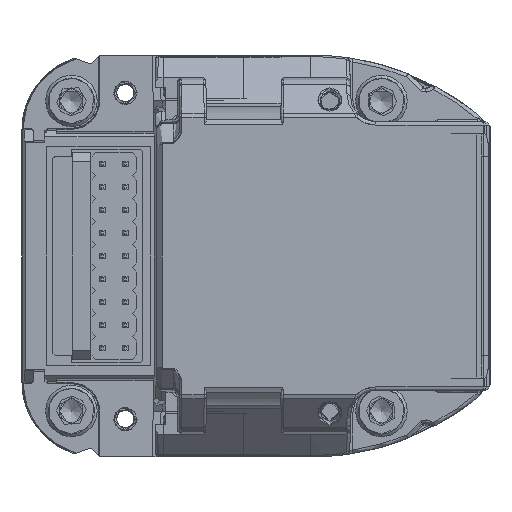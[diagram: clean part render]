
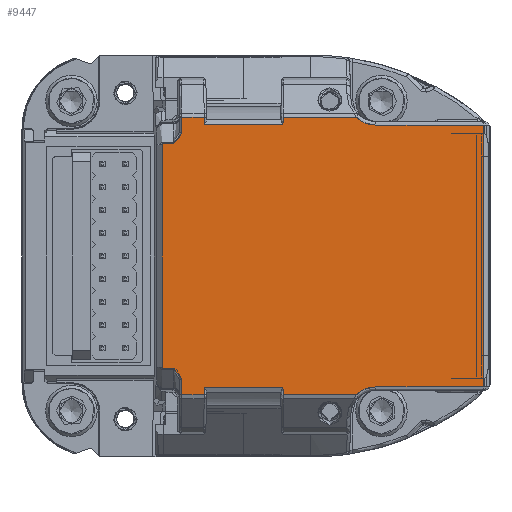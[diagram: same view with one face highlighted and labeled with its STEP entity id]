
A CAD part, front view. The second image highlights one B-rep face of the part: STEP entity #9447.
In plain terms, the highlighted planar face has unit normal (0, -1, 0).
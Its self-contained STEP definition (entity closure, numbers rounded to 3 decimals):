
#9447=ADVANCED_FACE('',(#10986),#10023,.T.);
#10023=PLANE('',#42912);
#10986=FACE_OUTER_BOUND('',#12180,.T.);
#12180=EDGE_LOOP('',(#23895,#23896,#23897,#23898,#23899,#23900,#23901,#23902,
#23903,#23904,#23905,#23906,#23907,#23908,#23909,#23910,#23911,#23912,#23913,
#23914,#23915,#23916,#23917,#23918));
#14998=LINE('',#73759,#17832);
#14999=LINE('',#73762,#17833);
#15000=LINE('',#73764,#17834);
#15001=LINE('',#73771,#17835);
#15002=LINE('',#73778,#17836);
#15003=LINE('',#73785,#17837);
#15004=LINE('',#73787,#17838);
#15005=LINE('',#73794,#17839);
#15006=LINE('',#73796,#17840);
#15007=LINE('',#73798,#17841);
#15008=LINE('',#73800,#17842);
#15009=LINE('',#73802,#17843);
#15010=LINE('',#73809,#17844);
#15011=LINE('',#73811,#17845);
#15012=LINE('',#73818,#17846);
#15013=LINE('',#73825,#17847);
#17832=VECTOR('',#48998,1.);
#17833=VECTOR('',#48999,1.);
#17834=VECTOR('',#49000,1.);
#17835=VECTOR('',#49001,1.);
#17836=VECTOR('',#49002,1.);
#17837=VECTOR('',#49003,1.);
#17838=VECTOR('',#49004,1.);
#17839=VECTOR('',#49005,1.);
#17840=VECTOR('',#49006,1.);
#17841=VECTOR('',#49007,1.);
#17842=VECTOR('',#49008,1.);
#17843=VECTOR('',#49009,1.);
#17844=VECTOR('',#49010,1.);
#17845=VECTOR('',#49011,1.);
#17846=VECTOR('',#49012,1.);
#17847=VECTOR('',#49013,1.);
#23895=ORIENTED_EDGE('',*,*,#36047,.T.);
#23896=ORIENTED_EDGE('',*,*,#36048,.T.);
#23897=ORIENTED_EDGE('',*,*,#36049,.T.);
#23898=ORIENTED_EDGE('',*,*,#36050,.T.);
#23899=ORIENTED_EDGE('',*,*,#36051,.T.);
#23900=ORIENTED_EDGE('',*,*,#36052,.T.);
#23901=ORIENTED_EDGE('',*,*,#36053,.T.);
#23902=ORIENTED_EDGE('',*,*,#36054,.T.);
#23903=ORIENTED_EDGE('',*,*,#36055,.T.);
#23904=ORIENTED_EDGE('',*,*,#36056,.T.);
#23905=ORIENTED_EDGE('',*,*,#36057,.T.);
#23906=ORIENTED_EDGE('',*,*,#36058,.T.);
#23907=ORIENTED_EDGE('',*,*,#36059,.T.);
#23908=ORIENTED_EDGE('',*,*,#36060,.T.);
#23909=ORIENTED_EDGE('',*,*,#36061,.T.);
#23910=ORIENTED_EDGE('',*,*,#36062,.T.);
#23911=ORIENTED_EDGE('',*,*,#36063,.T.);
#23912=ORIENTED_EDGE('',*,*,#36064,.T.);
#23913=ORIENTED_EDGE('',*,*,#36065,.T.);
#23914=ORIENTED_EDGE('',*,*,#36066,.T.);
#23915=ORIENTED_EDGE('',*,*,#36067,.T.);
#23916=ORIENTED_EDGE('',*,*,#36068,.T.);
#23917=ORIENTED_EDGE('',*,*,#36069,.T.);
#23918=ORIENTED_EDGE('',*,*,#36070,.T.);
#29974=VERTEX_POINT('',#73760);
#29975=VERTEX_POINT('',#73761);
#29976=VERTEX_POINT('',#73763);
#29977=VERTEX_POINT('',#73765);
#29978=VERTEX_POINT('',#73770);
#29979=VERTEX_POINT('',#73772);
#29980=VERTEX_POINT('',#73777);
#29981=VERTEX_POINT('',#73779);
#29982=VERTEX_POINT('',#73784);
#29983=VERTEX_POINT('',#73786);
#29984=VERTEX_POINT('',#73788);
#29985=VERTEX_POINT('',#73793);
#29986=VERTEX_POINT('',#73795);
#29987=VERTEX_POINT('',#73797);
#29988=VERTEX_POINT('',#73799);
#29989=VERTEX_POINT('',#73801);
#29990=VERTEX_POINT('',#73803);
#29991=VERTEX_POINT('',#73808);
#29992=VERTEX_POINT('',#73810);
#29993=VERTEX_POINT('',#73812);
#29994=VERTEX_POINT('',#73817);
#29995=VERTEX_POINT('',#73819);
#29996=VERTEX_POINT('',#73824);
#29997=VERTEX_POINT('',#73826);
#36047=EDGE_CURVE('',#29974,#29975,#14998,.T.);
#36048=EDGE_CURVE('',#29975,#29976,#14999,.T.);
#36049=EDGE_CURVE('',#29976,#29977,#15000,.T.);
#36050=EDGE_CURVE('',#29977,#29978,#38386,.T.);
#36051=EDGE_CURVE('',#29978,#29979,#15001,.T.);
#36052=EDGE_CURVE('',#29979,#29980,#38387,.T.);
#36053=EDGE_CURVE('',#29980,#29981,#15002,.T.);
#36054=EDGE_CURVE('',#29981,#29982,#38388,.T.);
#36055=EDGE_CURVE('',#29982,#29983,#15003,.T.);
#36056=EDGE_CURVE('',#29983,#29984,#15004,.T.);
#36057=EDGE_CURVE('',#29984,#29985,#38389,.T.);
#36058=EDGE_CURVE('',#29985,#29986,#15005,.T.);
#36059=EDGE_CURVE('',#29986,#29987,#15006,.T.);
#36060=EDGE_CURVE('',#29987,#29988,#15007,.T.);
#36061=EDGE_CURVE('',#29988,#29989,#15008,.T.);
#36062=EDGE_CURVE('',#29989,#29990,#15009,.T.);
#36063=EDGE_CURVE('',#29990,#29991,#38390,.T.);
#36064=EDGE_CURVE('',#29991,#29992,#15010,.T.);
#36065=EDGE_CURVE('',#29992,#29993,#15011,.T.);
#36066=EDGE_CURVE('',#29993,#29994,#38391,.T.);
#36067=EDGE_CURVE('',#29994,#29995,#15012,.T.);
#36068=EDGE_CURVE('',#29995,#29996,#38392,.T.);
#36069=EDGE_CURVE('',#29996,#29997,#15013,.T.);
#36070=EDGE_CURVE('',#29997,#29974,#38393,.T.);
#38386=B_SPLINE_CURVE_WITH_KNOTS('',3,(#73766,#73767,#73768,#73769),
 .UNSPECIFIED.,.F.,.F.,(4,4),(0.,1.),.UNSPECIFIED.);
#38387=B_SPLINE_CURVE_WITH_KNOTS('',3,(#73773,#73774,#73775,#73776),
 .UNSPECIFIED.,.F.,.F.,(4,4),(0.,1.),.UNSPECIFIED.);
#38388=B_SPLINE_CURVE_WITH_KNOTS('',3,(#73780,#73781,#73782,#73783),
 .UNSPECIFIED.,.F.,.F.,(4,4),(0.,1.),.UNSPECIFIED.);
#38389=B_SPLINE_CURVE_WITH_KNOTS('',3,(#73789,#73790,#73791,#73792),
 .UNSPECIFIED.,.F.,.F.,(4,4),(0.,1.),.UNSPECIFIED.);
#38390=B_SPLINE_CURVE_WITH_KNOTS('',3,(#73804,#73805,#73806,#73807),
 .UNSPECIFIED.,.F.,.F.,(4,4),(0.,1.),.UNSPECIFIED.);
#38391=B_SPLINE_CURVE_WITH_KNOTS('',3,(#73813,#73814,#73815,#73816),
 .UNSPECIFIED.,.F.,.F.,(4,4),(0.,1.),.UNSPECIFIED.);
#38392=B_SPLINE_CURVE_WITH_KNOTS('',3,(#73820,#73821,#73822,#73823),
 .UNSPECIFIED.,.F.,.F.,(4,4),(0.,1.),.UNSPECIFIED.);
#38393=B_SPLINE_CURVE_WITH_KNOTS('',3,(#73827,#73828,#73829,#73830),
 .UNSPECIFIED.,.F.,.F.,(4,4),(0.,1.),.UNSPECIFIED.);
#42912=AXIS2_PLACEMENT_3D('',#73831,#49014,#49015);
#48998=DIRECTION('',(1.,0.,0.));
#48999=DIRECTION('',(0.,0.,1.));
#49000=DIRECTION('',(-1.,0.,0.));
#49001=DIRECTION('',(-1.,0.,0.));
#49002=DIRECTION('',(-1.,0.,0.));
#49003=DIRECTION('',(-1.,0.,0.));
#49004=DIRECTION('',(0.,0.,-1.));
#49005=DIRECTION('',(-1.,0.,0.));
#49006=DIRECTION('',(-1.,0.,0.));
#49007=DIRECTION('',(0.,0.,-1.));
#49008=DIRECTION('',(1.,0.,0.));
#49009=DIRECTION('',(1.,0.,0.));
#49010=DIRECTION('',(0.,0.,-1.));
#49011=DIRECTION('',(1.,0.,0.));
#49012=DIRECTION('',(1.,0.,0.));
#49013=DIRECTION('',(1.,0.,0.));
#49014=DIRECTION('',(0.,-1.,0.));
#49015=DIRECTION('',(0.,0.,1.));
#73759=CARTESIAN_POINT('',(26.215,-1728.1,-28.9));
#73760=CARTESIAN_POINT('',(30.8,-1728.1,-28.9));
#73761=CARTESIAN_POINT('',(40.2,-1728.1,-28.9));
#73762=CARTESIAN_POINT('',(40.2,-1728.1,-17.5));
#73763=CARTESIAN_POINT('',(40.2,-1728.1,-6.1));
#73764=CARTESIAN_POINT('',(26.215,-1728.1,-6.1));
#73765=CARTESIAN_POINT('',(30.8,-1728.1,-6.1));
#73766=CARTESIAN_POINT('',(30.8,-1728.1,-6.1));
#73767=CARTESIAN_POINT('',(30.132,-1728.1,-6.1));
#73768=CARTESIAN_POINT('',(29.556,-1728.1,-5.869));
#73769=CARTESIAN_POINT('',(29.072,-1728.1,-5.407));
#73770=CARTESIAN_POINT('',(29.072,-1728.1,-5.407));
#73771=CARTESIAN_POINT('',(26.215,-1728.1,-5.407));
#73772=CARTESIAN_POINT('',(22.734,-1728.1,-5.407));
#73773=CARTESIAN_POINT('',(22.734,-1728.1,-5.407));
#73774=CARTESIAN_POINT('',(22.73,-1728.1,-5.622));
#73775=CARTESIAN_POINT('',(22.727,-1728.1,-5.836));
#73776=CARTESIAN_POINT('',(22.723,-1728.1,-6.05));
#73777=CARTESIAN_POINT('',(22.723,-1728.1,-6.05));
#73778=CARTESIAN_POINT('',(26.215,-1728.1,-6.05));
#73779=CARTESIAN_POINT('',(15.877,-1728.1,-6.05));
#73780=CARTESIAN_POINT('',(15.877,-1728.1,-6.05));
#73781=CARTESIAN_POINT('',(15.873,-1728.1,-5.836));
#73782=CARTESIAN_POINT('',(15.87,-1728.1,-5.622));
#73783=CARTESIAN_POINT('',(15.866,-1728.1,-5.407));
#73784=CARTESIAN_POINT('',(15.866,-1728.1,-5.407));
#73785=CARTESIAN_POINT('',(26.215,-1728.1,-5.407));
#73786=CARTESIAN_POINT('',(13.915,-1728.1,-5.407));
#73787=CARTESIAN_POINT('',(13.915,-1728.1,-17.5));
#73788=CARTESIAN_POINT('',(13.915,-1728.1,-6.749));
#73789=CARTESIAN_POINT('',(13.915,-1728.1,-6.749));
#73790=CARTESIAN_POINT('',(13.915,-1728.1,-7.29));
#73791=CARTESIAN_POINT('',(13.609,-1728.1,-7.733));
#73792=CARTESIAN_POINT('',(13.219,-1728.1,-7.733));
#73793=CARTESIAN_POINT('',(13.219,-1728.1,-7.733));
#73794=CARTESIAN_POINT('',(26.215,-1728.1,-7.733));
#73795=CARTESIAN_POINT('',(12.23,-1728.1,-7.733));
#73796=CARTESIAN_POINT('',(26.215,-1728.1,-7.733));
#73797=CARTESIAN_POINT('',(12.23,-1728.1,-7.733));
#73798=CARTESIAN_POINT('',(12.23,-1728.1,-17.5));
#73799=CARTESIAN_POINT('',(12.23,-1728.1,-27.267));
#73800=CARTESIAN_POINT('',(26.215,-1728.1,-27.267));
#73801=CARTESIAN_POINT('',(12.23,-1728.1,-27.267));
#73802=CARTESIAN_POINT('',(26.215,-1728.1,-27.267));
#73803=CARTESIAN_POINT('',(13.219,-1728.1,-27.267));
#73804=CARTESIAN_POINT('',(13.219,-1728.1,-27.267));
#73805=CARTESIAN_POINT('',(13.598,-1728.1,-27.267));
#73806=CARTESIAN_POINT('',(13.915,-1728.1,-27.704));
#73807=CARTESIAN_POINT('',(13.915,-1728.1,-28.251));
#73808=CARTESIAN_POINT('',(13.915,-1728.1,-28.251));
#73809=CARTESIAN_POINT('',(13.915,-1728.1,-17.5));
#73810=CARTESIAN_POINT('',(13.915,-1728.1,-29.593));
#73811=CARTESIAN_POINT('',(26.215,-1728.1,-29.593));
#73812=CARTESIAN_POINT('',(15.866,-1728.1,-29.593));
#73813=CARTESIAN_POINT('',(15.866,-1728.1,-29.593));
#73814=CARTESIAN_POINT('',(15.87,-1728.1,-29.378));
#73815=CARTESIAN_POINT('',(15.873,-1728.1,-29.164));
#73816=CARTESIAN_POINT('',(15.877,-1728.1,-28.95));
#73817=CARTESIAN_POINT('',(15.877,-1728.1,-28.95));
#73818=CARTESIAN_POINT('',(26.215,-1728.1,-28.95));
#73819=CARTESIAN_POINT('',(22.723,-1728.1,-28.95));
#73820=CARTESIAN_POINT('',(22.723,-1728.1,-28.95));
#73821=CARTESIAN_POINT('',(22.727,-1728.1,-29.164));
#73822=CARTESIAN_POINT('',(22.73,-1728.1,-29.378));
#73823=CARTESIAN_POINT('',(22.734,-1728.1,-29.593));
#73824=CARTESIAN_POINT('',(22.734,-1728.1,-29.593));
#73825=CARTESIAN_POINT('',(26.215,-1728.1,-29.593));
#73826=CARTESIAN_POINT('',(29.072,-1728.1,-29.593));
#73827=CARTESIAN_POINT('',(29.072,-1728.1,-29.593));
#73828=CARTESIAN_POINT('',(29.556,-1728.1,-29.131));
#73829=CARTESIAN_POINT('',(30.132,-1728.1,-28.9));
#73830=CARTESIAN_POINT('',(30.8,-1728.1,-28.9));
#73831=CARTESIAN_POINT('',(40.2,-1728.1,-29.593));
